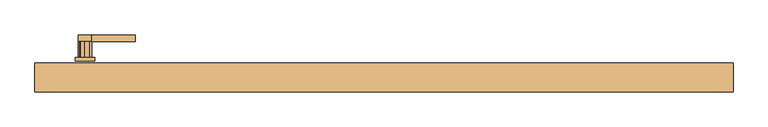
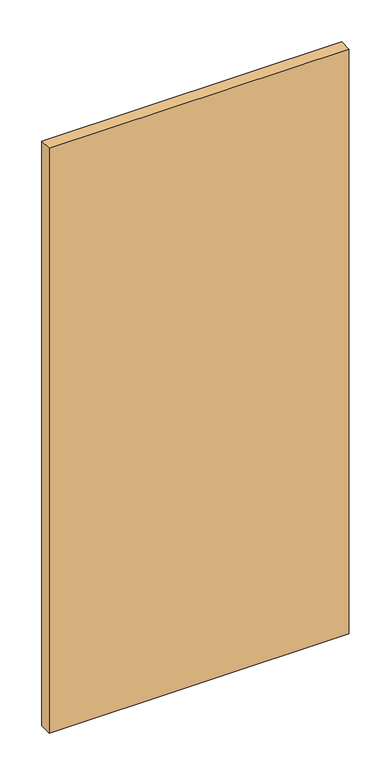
"""IFC4 building model written with IfcOpenShell, lengths in millimetres: door geometry, DoorPanel_Steel_Republic_F : DoorPanel_Steel_Republic_F."""

from ifc_helpers import new_model, si_unit, point, frame, frame_2d, origin, origin_with_axes, place, context, project, spatial, polyline, circle_curve, trimmed, segment, composite_curve, outline, extrude, source, transform, mapped, element, save


def door_f1603644(model_context):
    return source(origin(), model_context, "Body", "SweptSolid", [
        extrude(outline(polyline([(-533.5, 22.225), (533.5, 22.225), (533.5, -22.225), (-533.5, -22.225), (-533.5, 22.225)])), origin_with_axes(), (0.0, 0.0, 1.0), 2200.0),
        extrude(outline(polyline([(1032.6707758, -380.0754708), (1035.188045, -446.9582515), (1035.188045, -466.9577462), (1022.7366838, -466.9577462), (1022.7366838, -446.9582532), (1025.3335019, -380.0754708), (1032.6707758, -380.0754708)])), frame((0.0, 55.4, 0.0), z_axis=(0.0, 1.0, 0.0), x_axis=(0.0, 0.0, 1.0)), (0.0, 0.0, 1.0), 10.0),
        extrude(outline(composite_curve([segment(polyline([(1038.9613339, -450.6470626), (1038.9613339, -456.9583696), (1038.9613339, -463.1815873), (1037.3227257, -465.3170737), (1035.1845568, -466.9577462), (1022.655979, -466.9577462)]), True, "CONTINUOUS"), segment(trimmed(circle_curve(frame_2d((1028.9623666, -456.9567177)), 11.8233284), [point((1022.655979, -466.9577462))], [point((1018.9613374, -463.2631041))], False, "CARTESIAN"), True, "CONTINUOUS"), segment(polyline([(1018.9613374, -463.2631041), (1018.9613374, -456.9550653), (1018.9613374, -450.6503313)]), True, "CONTINUOUS"), segment(trimmed(circle_curve(frame_2d((1028.9623666, -456.9567177)), 11.8233284), [point((1018.9613374, -450.6503313))], [point((1022.6517295, -446.9583702))], False, "CARTESIAN"), True, "CONTINUOUS"), segment(polyline([(1022.6517295, -446.9583702), (1035.2730038, -446.9583702)]), True, "CONTINUOUS"), segment(trimmed(circle_curve(frame_2d((1028.9623666, -456.9567177)), 11.8233284), [point((1035.2730038, -446.9583702))], [point((1038.9613339, -450.6470626))], False, "CARTESIAN"), True, "CONTINUOUS")], self_intersect=False)), frame((0.0, 30.4, 0.0), z_axis=(0.0, 1.0, 0.0), x_axis=(0.0, 0.0, 1.0)), (0.0, 0.0, 1.0), 25.0),
        extrude(outline(polyline([(1058.5277541, -441.9610682), (1058.5277541, -471.9610682), (928.5277585, -471.9610682), (928.5277585, -441.9610682), (1058.5277541, -441.9610682)]), holes=[composite_curve([segment(trimmed(circle_curve(frame_2d((1050.9570683, -456.959856)), 3.0), [point((1050.9570683, -459.959856))], [point((1050.9570683, -453.959856))], True, "CARTESIAN"), True, "CONTINUOUS"), segment(trimmed(circle_curve(frame_2d((1050.9570683, -456.959856)), 3.0), [point((1050.9570683, -453.959856))], [point((1050.9570683, -459.959856))], True, "CARTESIAN"), True, "CONTINUOUS")], self_intersect=False), composite_curve([segment(trimmed(circle_curve(frame_2d((937.0620083, -456.9610682)), 3.0), [point((937.0620083, -459.9610682))], [point((937.0620083, -453.9610682))], True, "CARTESIAN"), True, "CONTINUOUS"), segment(trimmed(circle_curve(frame_2d((937.0620083, -456.9610682)), 3.0), [point((937.0620083, -453.9610682))], [point((937.0620083, -459.9610682))], True, "CARTESIAN"), True, "CONTINUOUS")], self_intersect=False), composite_curve([segment(trimmed(circle_curve(frame_2d((984.4005078, -456.9493961)), 8.0), [point((992.4005077, -456.9506771))], [point((977.4729452, -452.9482867))], True, "CARTESIAN"), True, "CONTINUOUS"), segment(polyline([(977.4729452, -452.9482867), (965.4359649, -453.0639116), (963.5062157, -453.0824479)]), True, "CONTINUOUS"), segment(trimmed(circle_curve(frame_2d((964.5414898, -456.9461517)), 4.0), [point((963.5062157, -453.0824479))], [point((960.5414898, -456.9461517))], True, "CARTESIAN"), True, "CONTINUOUS"), segment(trimmed(circle_curve(frame_2d((964.5414898, -456.9461517)), 4.0), [point((960.5414898, -456.9461517))], [point((964.5414898, -460.9461517))], True, "CARTESIAN"), True, "CONTINUOUS"), segment(polyline([(964.5414898, -460.9461517), (977.4704325, -460.9461517)]), True, "CONTINUOUS"), segment(trimmed(circle_curve(frame_2d((984.4005078, -456.9493961)), 8.0), [point((977.4704325, -460.9461517))], [point((992.4005077, -456.9506771))], True, "CARTESIAN"), True, "CONTINUOUS")], self_intersect=False)]), frame((0.0, 25.4, 0.0), z_axis=(0.0, 1.0, 0.0), x_axis=(0.0, 0.0, 1.0)), (0.0, 0.0, 1.0), 5.0),
        extrude(outline(composite_curve([segment(polyline([(982.1073188, -456.4330916), (986.9415485, -456.2206795)]), True, "CONTINUOUS"), segment(trimmed(circle_curve(frame_2d((987.6708747, -456.9500052)), 1.0314227), [point((986.9415485, -456.2206795))], [point((988.7022973, -456.9500052))], False, "CARTESIAN"), True, "CONTINUOUS"), segment(trimmed(circle_curve(frame_2d((987.6708747, -456.9500052)), 1.0314227), [point((988.7022973, -456.9500052))], [point((986.9415487, -457.6793312))], False, "CARTESIAN"), True, "CONTINUOUS"), segment(polyline([(986.9415487, -457.6793312), (982.1073188, -457.4653165), (980.3194555, -457.4653165)]), True, "CONTINUOUS"), segment(trimmed(circle_curve(frame_2d((980.3194555, -456.9492041)), 0.5161124), [point((980.3194555, -457.4653165))], [point((980.3194555, -456.4330916))], False, "CARTESIAN"), True, "CONTINUOUS"), segment(polyline([(980.3194555, -456.4330916), (982.1073188, -456.4330916)]), True, "CONTINUOUS")], self_intersect=False)), frame((0.0, 25.4, 0.0), z_axis=(0.0, 1.0, 0.0), x_axis=(0.0, 0.0, 1.0)), (0.0, 0.0, 1.0), 5.0),
    ])


if __name__ == "__main__":
    model = new_model("IFC4")
    model_context = context("Model", 3, world=origin())
    ifc_project = project(units=[si_unit("LENGTHUNIT", "METRE", prefix="MILLI")], contexts=[model_context])
    site = spatial("IfcSite", under=ifc_project)
    building = spatial("IfcBuilding", under=site)
    placement = place(None, origin())
    door_shape = door_f1603644(model_context)
    element("IfcDoor", 1, ObjectType="DoorPanel_Steel_Republic_F : DoorPanel_Steel_Republic_F", at=placement, inside=building, context=model_context, shape_type="MappedRepresentation", body=[
        mapped(door_shape, transform((0.0, 0.0, 0.0), x_axis=(1.0, 0.0, 0.0), y_axis=(0.0, 1.0, 0.0), z_axis=(0.0, 0.0, 1.0))),
    ])
    save(model, "model.ifc")
